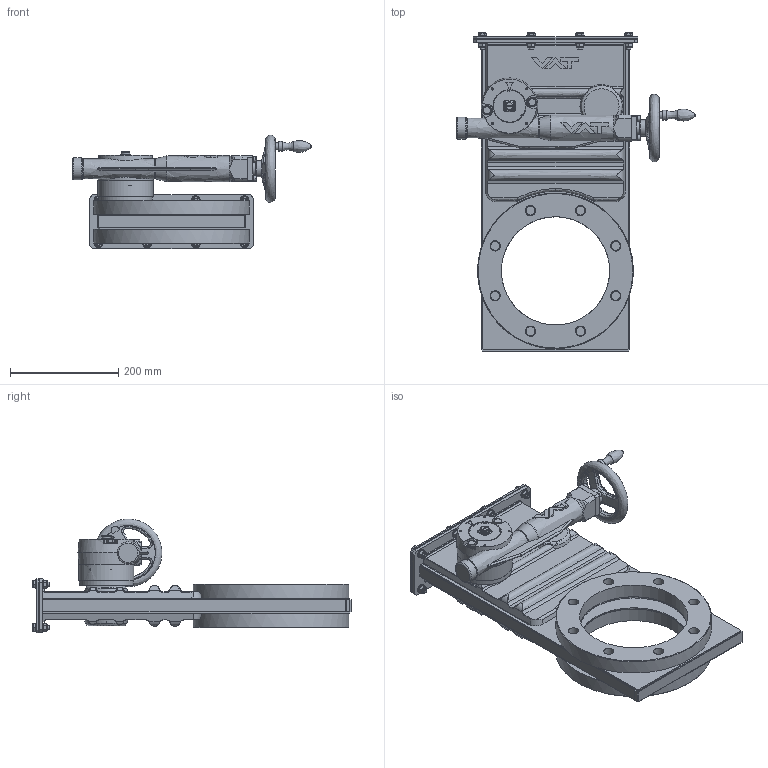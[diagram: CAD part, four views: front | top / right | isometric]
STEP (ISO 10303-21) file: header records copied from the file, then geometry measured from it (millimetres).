
FILE_DESCRIPTION((''),'2;1');
FILE_NAME('O:\MT\MT\Systeme\Cad\Datenexporte\www_vat_ch\238857A.stp','2005-07-29T11:01:45',('User'),('SDRC'),'I-DEAS Master Series 9','UNIX','Yes');
FILE_SCHEMA(('CONFIG_CONTROL_DESIGN'));
Length unit declared in the file: millimetre
Assembly tree (67 placements, depth 0):
Bounding box: 441.8 x 587.9 x 210.36 mm (x, y, z)
Volume: 4057380.7 mm3; surface area: 1272582.3 mm2
Topology: 92 solids, 92 shells, 1640 faces, 3886 edges, 2491 vertices
Faces by surface type: bspline 1640
Entity records: 50780 total; most frequent: CARTESIAN_POINT 28260, ORIENTED_EDGE 5942, EDGE_CURVE 2971, VERTEX_POINT 1916, EDGE_LOOP 1365, B_SPLINE_CURVE_WITH_KNOTS 1229, FACE_OUTER_BOUND 1172, ADVANCED_FACE 1172
